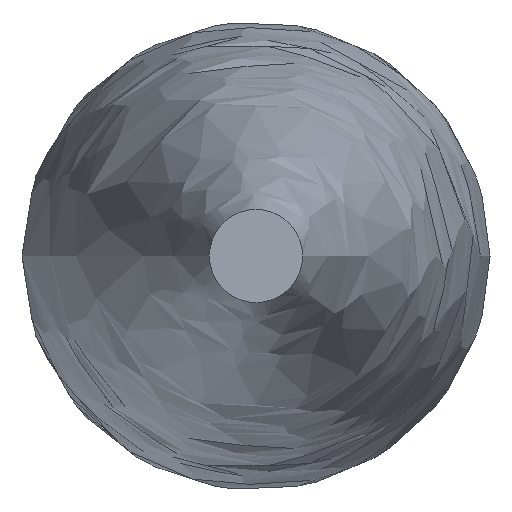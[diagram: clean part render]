
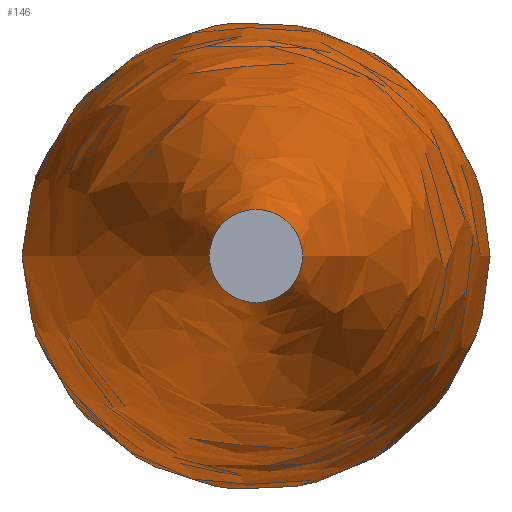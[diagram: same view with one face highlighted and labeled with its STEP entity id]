
A CAD part, left-side view. The second image highlights one B-rep face of the part: STEP entity #146.
In plain terms, the highlighted face is a revolution surface.
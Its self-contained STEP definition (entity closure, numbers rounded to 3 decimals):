
#78=CARTESIAN_POINT('',(1230.0,33.0,0.0));
#79=VERTEX_POINT('',#78);
#86=CARTESIAN_POINT('',(1230.0,0.0,0.0));
#87=DIRECTION('',(-1.0,0.0,0.0));
#88=DIRECTION('',(0.0,1.0,0.0));
#89=AXIS2_PLACEMENT_3D('',#86,#87,#88);
#90=CIRCLE('',#89,33.0);
#91=EDGE_CURVE('',#79,#79,#90,.T.);
#97=CARTESIAN_POINT('',(110.,30.,0.0));
#98=CARTESIAN_POINT('',(163.737,49.048,0.0));
#99=CARTESIAN_POINT('',(252.965,63.064,0.0));
#100=CARTESIAN_POINT('',(363.002,90.364,0.0));
#101=CARTESIAN_POINT('',(499.64,114.665,0.0));
#102=CARTESIAN_POINT('',(599.696,129.028,0.0));
#103=CARTESIAN_POINT('',(699.804,138.217,0.0));
#104=CARTESIAN_POINT('',(800.476,146.314,0.0));
#105=CARTESIAN_POINT('',(899.81,158.522,0.0));
#106=CARTESIAN_POINT('',(1002.075,124.018,0.0));
#107=CARTESIAN_POINT('',(1094.582,111.364,0.0));
#108=CARTESIAN_POINT('',(1222.045,54.314,0.0));
#109=CARTESIAN_POINT('',(1217.424,46.993,0.0));
#110=CARTESIAN_POINT('',(1230.,33.,0.0));
#111=B_SPLINE_CURVE_WITH_KNOTS('',4,(#97,#98,#99,#100,#101,#102,#103,#104,#105,#106,#107,#108,#109,#110),.UNSPECIFIED.,.F.,.U.,(5,1,1,1,1,1,1,1,1,1,5),(0.0,0.207,0.292,0.376,0.46,0.543,0.627,0.711,0.796,0.871,1.0),.UNSPECIFIED.);
#112=CARTESIAN_POINT('',(110.0,0.0,0.0));
#113=DIRECTION('',(1.0,0.0,0.0));
#114=AXIS1_PLACEMENT('',#112,#113);
#115=SURFACE_OF_REVOLUTION('',#111,#114);
#116=CARTESIAN_POINT('',(110.0,30.0,0.0));
#117=VERTEX_POINT('',#116);
#118=CARTESIAN_POINT('',(1230.,33.,0.0));
#119=CARTESIAN_POINT('',(1217.424,46.993,0.0));
#120=CARTESIAN_POINT('',(1222.045,54.314,0.0));
#121=CARTESIAN_POINT('',(1094.582,111.364,0.0));
#122=CARTESIAN_POINT('',(1002.075,124.018,0.0));
#123=CARTESIAN_POINT('',(899.81,158.522,0.0));
#124=CARTESIAN_POINT('',(800.476,146.314,0.0));
#125=CARTESIAN_POINT('',(699.804,138.217,0.0));
#126=CARTESIAN_POINT('',(599.696,129.028,0.0));
#127=CARTESIAN_POINT('',(499.64,114.665,0.0));
#128=CARTESIAN_POINT('',(363.002,90.364,0.0));
#129=CARTESIAN_POINT('',(252.965,63.064,0.0));
#130=CARTESIAN_POINT('',(163.737,49.048,0.0));
#131=CARTESIAN_POINT('',(110.,30.,0.0));
#132=B_SPLINE_CURVE_WITH_KNOTS('',4,(#118,#119,#120,#121,#122,#123,#124,#125,#126,#127,#128,#129,#130,#131),.UNSPECIFIED.,.F.,.U.,(5,1,1,1,1,1,1,1,1,1,5),(0.0,0.129,0.204,0.289,0.373,0.457,0.54,0.624,0.708,0.793,1.0),.UNSPECIFIED.);
#133=EDGE_CURVE('',#79,#117,#132,.T.);
#134=ORIENTED_EDGE('',*,*,#133,.T.);
#135=CARTESIAN_POINT('',(110.0,0.0,0.0));
#136=DIRECTION('',(-1.0,0.0,0.0));
#137=DIRECTION('',(0.0,1.0,0.0));
#138=AXIS2_PLACEMENT_3D('',#135,#136,#137);
#139=CIRCLE('',#138,30.0);
#140=EDGE_CURVE('',#117,#117,#139,.T.);
#141=ORIENTED_EDGE('',*,*,#140,.F.);
#142=ORIENTED_EDGE('',*,*,#133,.F.);
#143=ORIENTED_EDGE('',*,*,#91,.T.);
#144=EDGE_LOOP('',(#134,#141,#142,#143));
#145=FACE_OUTER_BOUND('',#144,.T.);
#146=ADVANCED_FACE('',(#145),#115,.T.);
